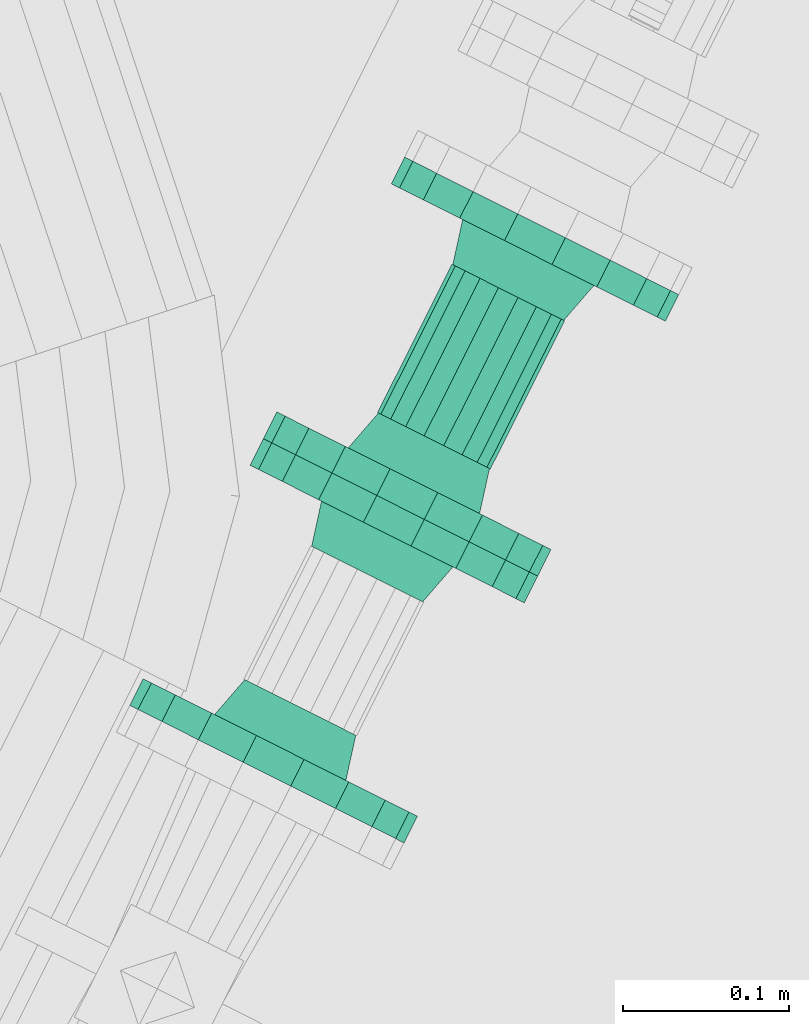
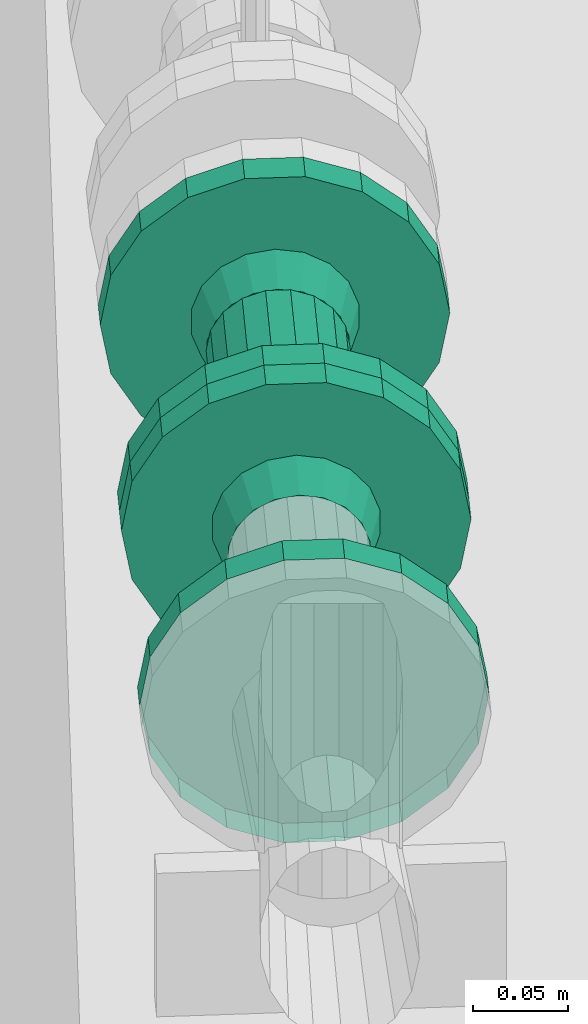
# One storey, part 106 of 206: 4 flow fittings, 1 flow segment.
"""IFC2X3 building model written with IfcOpenShell, lengths in metres."""

from ifc_helpers import new_model, si_unit, derived_unit, direction, frame, origin, place, context, subcontext, project, spatial, face_set, surface_model, source, transform, mapped, material, type_object, type_shapes, element, save


model = new_model("IFC2X3")

# Units and contexts
model_context = context("Model", 3, precision=5.2338327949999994e-05, world=origin(), true_north=direction((0.0, 1.0)))
body_context = subcontext(model_context, "Body", "Model", "MODEL_VIEW")
ifc_project = project(units=[si_unit("LENGTHUNIT", "METRE"), si_unit("AREAUNIT", "SQUARE_METRE"), si_unit("VOLUMEUNIT", "CUBIC_METRE"), si_unit("MASSUNIT", "GRAM", prefix="KILO"), si_unit("PLANEANGLEUNIT", "RADIAN"), derived_unit("THERMALTRANSMITTANCEUNIT", [(si_unit("MASSUNIT", "GRAM", prefix="KILO"), 1), (si_unit("THERMODYNAMICTEMPERATUREUNIT", "KELVIN"), -1), (si_unit("TIMEUNIT", "SECOND"), -3)])], contexts=[model_context])

# Site, building, storey
site_placement = place(None, frame((0.0, 0.0, 0.0), z_axis=(0.0, 0.0, 1.0), x_axis=(0.8939966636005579, -0.4480736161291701, 0.0)))
site = spatial("IfcSite", under=ifc_project, at=site_placement, Name="Default", CompositionType="ELEMENT")
building_placement = place(site_placement, origin())
building = spatial("IfcBuilding", under=site, at=building_placement, CompositionType="ELEMENT")
storey_placement = place(building_placement, origin())
storey = spatial("IfcBuildingStorey", under=building, at=storey_placement, Name="Erdgeschoss", CompositionType="ELEMENT", Elevation=0.0)

# Flow fittings
ifc_material = material(Name="IfcSurfaceStyle #352577")
distribution_element_type_1 = type_object("IfcDistributionElementType", Name="Flansch 355505:Flansch 355505", material=ifc_material)
shared_shape_1 = source(origin(), body_context, "Body", "SurfaceModel", [
    surface_model("IfcFaceBasedSurfaceModel", [(22.356766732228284, 5.582958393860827, 0.9080499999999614), (22.34375286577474, 5.582958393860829, 0.9057553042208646), (22.341375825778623, 5.55595839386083, 0.912286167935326), (22.356766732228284, 5.55595839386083, 0.914999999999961), (22.33230866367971, 5.582958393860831, 0.8991479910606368), (22.32784128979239, 5.555958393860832, 0.9044719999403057), (22.323814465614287, 5.582958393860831, 0.8890249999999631), (22.317795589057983, 5.555958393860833, 0.8924999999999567), (22.31929479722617, 5.582958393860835, 0.8766073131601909), (22.312450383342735, 5.555958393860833, 0.8778141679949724), (22.31929479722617, 5.582958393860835, 0.8633926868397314), (22.312450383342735, 5.555958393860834, 0.8621858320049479), (22.32381446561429, 5.5829583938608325, 0.8509749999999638), (22.317795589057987, 5.555958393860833, 0.847499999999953), (22.332308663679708, 5.582958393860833, 0.8408520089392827), (22.327841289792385, 5.555958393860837, 0.8355280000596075), (22.343752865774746, 5.582958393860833, 0.83424469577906), (22.341375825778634, 5.555958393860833, 0.827713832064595), (22.356766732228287, 5.5829583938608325, 0.8319499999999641), (22.356766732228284, 5.555958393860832, 0.8249999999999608), (22.369780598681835, 5.582958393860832, 0.8342446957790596), (22.372157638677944, 5.555958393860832, 0.8277138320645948), (22.38122480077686, 5.5829583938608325, 0.8408520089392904), (22.385692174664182, 5.555958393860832, 0.8355280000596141), (22.389718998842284, 5.582958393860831, 0.8509749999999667), (22.395737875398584, 5.555958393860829, 0.8474999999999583), (22.3942386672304, 5.582958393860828, 0.863392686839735), (22.40108308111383, 5.55595839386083, 0.8621858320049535), (22.3942386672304, 5.582958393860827, 0.8766073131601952), (22.401083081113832, 5.555958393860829, 0.8778141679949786), (22.389718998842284, 5.582958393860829, 0.8890249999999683), (22.39573787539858, 5.555958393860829, 0.8924999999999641), (22.381224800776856, 5.582958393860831, 0.8991479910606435), (22.38569217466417, 5.555958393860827, 0.9044719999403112), (22.369780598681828, 5.582958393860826, 0.9057553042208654), (22.372157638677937, 5.555958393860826, 0.9122861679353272), (22.264266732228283, 5.555958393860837, 0.8699999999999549), (22.26984516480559, 5.555958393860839, 0.8383631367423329), (22.26984516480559, 5.537958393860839, 0.8383631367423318), (22.264266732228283, 5.537958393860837, 0.8699999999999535), (22.285907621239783, 5.555958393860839, 0.8105421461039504), (22.285907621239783, 5.537958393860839, 0.8105421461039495), (22.310516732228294, 5.555958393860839, 0.7898926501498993), (22.31051673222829, 5.537958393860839, 0.7898926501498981), (22.340704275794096, 5.555958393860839, 0.7789052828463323), (22.340704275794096, 5.537958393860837, 0.7789052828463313), (22.37282918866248, 5.555958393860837, 0.7789052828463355), (22.37282918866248, 5.537958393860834, 0.7789052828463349), (22.403016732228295, 5.555958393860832, 0.7898926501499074), (22.40301673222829, 5.537958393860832, 0.7898926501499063), (22.427625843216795, 5.55595839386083, 0.8105421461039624), (22.427625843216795, 5.53795839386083, 0.8105421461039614), (22.44368829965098, 5.555958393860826, 0.8383631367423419), (22.44368829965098, 5.5379583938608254, 0.8383631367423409), (22.44926673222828, 5.5559583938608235, 0.8699999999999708), (22.44926673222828, 5.5379583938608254, 0.8699999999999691), (22.443688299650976, 5.5559583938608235, 0.9016368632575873), (22.443688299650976, 5.537958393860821, 0.9016368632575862), (22.427625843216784, 5.5559583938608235, 0.9294578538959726), (22.427625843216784, 5.537958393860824, 0.9294578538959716), (22.403016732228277, 5.5559583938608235, 0.9501073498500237), (22.403016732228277, 5.537958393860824, 0.950107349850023), (22.372829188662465, 5.555958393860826, 0.9610947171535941), (22.372829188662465, 5.537958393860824, 0.9610947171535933), (22.340704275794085, 5.555958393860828, 0.9610947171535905), (22.34070427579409, 5.5379583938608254, 0.9610947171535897), (22.310516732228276, 5.555958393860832, 0.9501073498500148), (22.310516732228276, 5.537958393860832, 0.9501073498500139), (22.285907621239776, 5.555958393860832, 0.9294578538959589), (22.285907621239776, 5.537958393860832, 0.9294578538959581), (22.269845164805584, 5.555958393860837, 0.9016368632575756), (22.269845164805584, 5.537958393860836, 0.9016368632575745), (22.356766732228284, 5.555958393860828, 0.8699999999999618)], [face_set([[[0, 1, 2, 3]], [[1, 4, 5, 2]], [[4, 6, 7, 5]], [[6, 8, 9, 7]], [[8, 10, 11, 9]], [[10, 12, 13, 11]], [[12, 14, 15, 13]], [[14, 16, 17, 15]], [[16, 18, 19, 17]], [[18, 20, 21, 19]], [[20, 22, 23, 21]], [[22, 24, 25, 23]], [[24, 26, 27, 25]], [[26, 28, 29, 27]], [[28, 30, 31, 29]], [[30, 32, 33, 31]], [[32, 34, 35, 33]], [[34, 0, 3, 35]], [[36, 37, 38, 39]], [[37, 40, 41, 38]], [[40, 42, 43, 41]], [[42, 44, 45, 43]], [[44, 46, 47, 45]], [[46, 48, 49, 47]], [[48, 50, 51, 49]], [[50, 52, 53, 51]], [[52, 54, 55, 53]], [[54, 56, 57, 55]], [[56, 58, 59, 57]], [[58, 60, 61, 59]], [[60, 62, 63, 61]], [[62, 64, 65, 63]], [[64, 66, 67, 65]], [[66, 68, 69, 67]], [[68, 70, 71, 69]], [[70, 36, 39, 71]], [[72, 37, 36]], [[72, 40, 37]], [[72, 42, 40]], [[72, 44, 42]], [[72, 46, 44]], [[72, 48, 46]], [[72, 50, 48]], [[72, 52, 50]], [[72, 54, 52]], [[72, 56, 54]], [[72, 58, 56]], [[72, 60, 58]], [[72, 62, 60]], [[72, 64, 62]], [[72, 66, 64]], [[72, 68, 66]], [[72, 70, 68]], [[72, 36, 70]]])]),
])
type_shapes(distribution_element_type_1, [shared_shape_1])
flow_fitting_1_placement = place(storey_placement, origin())
element("IfcFlowFitting", 1, at=flow_fitting_1_placement, inside=storey, type_object=distribution_element_type_1, material=ifc_material, Name="Flansch", ObjectType="Flansch", context=body_context, shape_type="MappedRepresentation", body=[
    mapped(shared_shape_1, transform((0.0, 0.0, 0.0), scale=1.0)),
])
distribution_element_type_2 = type_object("IfcDistributionElementType", Name="Flansch 355534:Flansch 355534", material=ifc_material)
shared_shape_2 = source(origin(), body_context, "Body", "SurfaceModel", [
    surface_model("IfcFaceBasedSurfaceModel", [(22.264266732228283, 5.71795839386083, 0.869999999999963), (22.269845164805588, 5.71795839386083, 0.9016368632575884), (22.269845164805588, 5.73595839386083, 0.9016368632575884), (22.264266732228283, 5.73595839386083, 0.869999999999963), (22.285907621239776, 5.71795839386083, 0.9294578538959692), (22.285907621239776, 5.73595839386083, 0.9294578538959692), (22.310516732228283, 5.71795839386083, 0.950107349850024), (22.310516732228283, 5.73595839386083, 0.950107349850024), (22.340704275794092, 5.71795839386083, 0.9610947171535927), (22.340704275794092, 5.73595839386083, 0.9610947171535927), (22.372829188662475, 5.71795839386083, 0.9610947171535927), (22.372829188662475, 5.73595839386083, 0.9610947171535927), (22.40301673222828, 5.71795839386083, 0.9501073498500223), (22.40301673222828, 5.73595839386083, 0.9501073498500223), (22.427625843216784, 5.71795839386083, 0.9294578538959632), (22.427625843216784, 5.73595839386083, 0.9294578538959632), (22.44368829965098, 5.71795839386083, 0.9016368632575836), (22.44368829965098, 5.73595839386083, 0.9016368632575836), (22.449266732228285, 5.71795839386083, 0.8699999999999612), (22.449266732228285, 5.73595839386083, 0.8699999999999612), (22.44368829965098, 5.71795839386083, 0.838363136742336), (22.44368829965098, 5.73595839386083, 0.838363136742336), (22.427625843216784, 5.71795839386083, 0.8105421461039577), (22.427625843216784, 5.73595839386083, 0.8105421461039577), (22.403016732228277, 5.71795839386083, 0.7898926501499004), (22.403016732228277, 5.73595839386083, 0.7898926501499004), (22.37282918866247, 5.71795839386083, 0.778905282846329), (22.37282918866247, 5.73595839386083, 0.778905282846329), (22.340704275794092, 5.71795839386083, 0.7789052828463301), (22.340704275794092, 5.73595839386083, 0.7789052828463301), (22.310516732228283, 5.71795839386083, 0.7898926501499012), (22.310516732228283, 5.73595839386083, 0.7898926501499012), (22.285907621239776, 5.71795839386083, 0.8105421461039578), (22.285907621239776, 5.73595839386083, 0.8105421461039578), (22.269845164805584, 5.71795839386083, 0.8383631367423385), (22.269845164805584, 5.73595839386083, 0.8383631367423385), (22.35676673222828, 5.73595839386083, 0.8699999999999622), (22.356766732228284, 5.73595839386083, 0.9149999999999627), (22.37215763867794, 5.73595839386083, 0.9122861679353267), (22.369780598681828, 5.76295839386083, 0.9057553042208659), (22.356766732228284, 5.76295839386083, 0.9080499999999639), (22.38569217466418, 5.735958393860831, 0.9044719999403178), (22.381224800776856, 5.762958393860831, 0.8991479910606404), (22.395737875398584, 5.73595839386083, 0.8924999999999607), (22.38971899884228, 5.76295839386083, 0.889024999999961), (22.40108308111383, 5.73595839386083, 0.8778141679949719), (22.394238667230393, 5.76295839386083, 0.876607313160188), (22.40108308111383, 5.73595839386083, 0.8621858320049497), (22.394238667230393, 5.76295839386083, 0.8633926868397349), (22.39573787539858, 5.735958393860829, 0.8474999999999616), (22.38971899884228, 5.7629583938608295, 0.8509749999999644), (22.38569217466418, 5.73595839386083, 0.8355280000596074), (22.38122480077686, 5.76295839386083, 0.8408520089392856), (22.372157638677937, 5.73595839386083, 0.8277138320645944), (22.369780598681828, 5.76295839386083, 0.8342446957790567), (22.356766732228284, 5.73595839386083, 0.8249999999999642), (22.356766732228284, 5.76295839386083, 0.8319499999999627), (22.341375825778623, 5.73595839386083, 0.8277138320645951), (22.343752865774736, 5.76295839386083, 0.8342446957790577), (22.327841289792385, 5.73595839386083, 0.8355280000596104), (22.33230866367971, 5.76295839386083, 0.8408520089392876), (22.317795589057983, 5.73595839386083, 0.8474999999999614), (22.323814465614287, 5.76295839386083, 0.8509749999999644), (22.312450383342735, 5.73595839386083, 0.8621858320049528), (22.31929479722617, 5.76295839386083, 0.8633926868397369), (22.31245038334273, 5.73595839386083, 0.877814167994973), (22.319294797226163, 5.76295839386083, 0.8766073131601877), (22.317795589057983, 5.73595839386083, 0.8924999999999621), (22.323814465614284, 5.76295839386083, 0.8890249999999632), (22.327841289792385, 5.73595839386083, 0.9044719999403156), (22.33230866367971, 5.76295839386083, 0.8991479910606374), (22.341375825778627, 5.73595839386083, 0.9122861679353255), (22.34375286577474, 5.76295839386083, 0.9057553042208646)], [face_set([[[0, 1, 2, 3]], [[1, 4, 5, 2]], [[4, 6, 7, 5]], [[6, 8, 9, 7]], [[8, 10, 11, 9]], [[10, 12, 13, 11]], [[12, 14, 15, 13]], [[14, 16, 17, 15]], [[16, 18, 19, 17]], [[18, 20, 21, 19]], [[20, 22, 23, 21]], [[22, 24, 25, 23]], [[24, 26, 27, 25]], [[26, 28, 29, 27]], [[28, 30, 31, 29]], [[30, 32, 33, 31]], [[32, 34, 35, 33]], [[34, 0, 3, 35]], [[36, 35, 3]], [[36, 33, 35]], [[36, 31, 33]], [[36, 29, 31]], [[36, 27, 29]], [[36, 25, 27]], [[36, 23, 25]], [[36, 21, 23]], [[36, 19, 21]], [[36, 17, 19]], [[36, 15, 17]], [[36, 13, 15]], [[36, 11, 13]], [[36, 9, 11]], [[36, 7, 9]], [[36, 5, 7]], [[36, 2, 5]], [[36, 3, 2]], [[37, 38, 39, 40]], [[38, 41, 42, 39]], [[41, 43, 44, 42]], [[43, 45, 46, 44]], [[45, 47, 48, 46]], [[47, 49, 50, 48]], [[49, 51, 52, 50]], [[51, 53, 54, 52]], [[53, 55, 56, 54]], [[55, 57, 58, 56]], [[57, 59, 60, 58]], [[59, 61, 62, 60]], [[61, 63, 64, 62]], [[63, 65, 66, 64]], [[65, 67, 68, 66]], [[67, 69, 70, 68]], [[69, 71, 72, 70]], [[71, 37, 40, 72]]])]),
])
type_shapes(distribution_element_type_2, [shared_shape_2])
flow_fitting_2_placement = place(storey_placement, origin())
element("IfcFlowFitting", 2, at=flow_fitting_2_placement, inside=storey, type_object=distribution_element_type_2, material=ifc_material, Name="Flansch", ObjectType="Flansch", context=body_context, shape_type="MappedRepresentation", body=[
    mapped(shared_shape_2, transform((0.0, 0.0, 0.0), scale=1.0)),
])

# Flow segment
distribution_element_type_3 = type_object("IfcDistributionElementType", Name="Stahlrohr nach DIN 2448 355557:Stahlrohr nach DIN 2448 355557", material=ifc_material)
shared_shape_3 = source(origin(), body_context, "Body", "SurfaceModel", [
    surface_model("IfcFaceBasedSurfaceModel", [(22.318716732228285, 5.862958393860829, 0.8699999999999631), (22.32101142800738, 5.862958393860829, 0.8569861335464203), (22.32101142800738, 5.76295839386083, 0.8569861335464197), (22.318716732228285, 5.76295839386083, 0.8699999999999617), (22.32761874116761, 5.862958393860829, 0.8455419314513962), (22.32761874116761, 5.76295839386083, 0.8455419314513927), (22.33774173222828, 5.862958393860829, 0.8370477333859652), (22.33774173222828, 5.76295839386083, 0.8370477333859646), (22.350159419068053, 5.862958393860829, 0.8325280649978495), (22.350159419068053, 5.76295839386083, 0.8325280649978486), (22.36337404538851, 5.862958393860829, 0.832528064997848), (22.36337404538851, 5.76295839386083, 0.8325280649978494), (22.375791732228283, 5.862958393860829, 0.837047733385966), (22.375791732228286, 5.76295839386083, 0.8370477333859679), (22.385914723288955, 5.862958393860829, 0.8455419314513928), (22.385914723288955, 5.76295839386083, 0.8455419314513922), (22.392522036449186, 5.862958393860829, 0.8569861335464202), (22.392522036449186, 5.76295839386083, 0.856986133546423), (22.394816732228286, 5.862958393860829, 0.8699999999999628), (22.39481673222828, 5.76295839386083, 0.8699999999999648), (22.392522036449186, 5.862958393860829, 0.8830138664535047), (22.392522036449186, 5.76295839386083, 0.8830138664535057), (22.38591472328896, 5.862958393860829, 0.8944580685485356), (22.385914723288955, 5.76295839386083, 0.8944580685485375), (22.375791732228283, 5.862958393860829, 0.9029522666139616), (22.375791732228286, 5.76295839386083, 0.9029522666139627), (22.363374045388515, 5.862958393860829, 0.9074719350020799), (22.36337404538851, 5.76295839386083, 0.9074719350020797), (22.350159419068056, 5.862958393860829, 0.9074719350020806), (22.350159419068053, 5.76295839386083, 0.9074719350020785), (22.337741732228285, 5.862958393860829, 0.902952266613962), (22.33774173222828, 5.76295839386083, 0.9029522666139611), (22.32761874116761, 5.862958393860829, 0.8944580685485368), (22.327618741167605, 5.76295839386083, 0.8944580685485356), (22.32101142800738, 5.862958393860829, 0.8830138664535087), (22.32101142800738, 5.76295839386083, 0.8830138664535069)], [face_set([[[0, 1, 2, 3]], [[1, 4, 5, 2]], [[4, 6, 7, 5]], [[6, 8, 9, 7]], [[8, 10, 11, 9]], [[10, 12, 13, 11]], [[12, 14, 15, 13]], [[14, 16, 17, 15]], [[16, 18, 19, 17]], [[18, 20, 21, 19]], [[20, 22, 23, 21]], [[22, 24, 25, 23]], [[24, 26, 27, 25]], [[26, 28, 29, 27]], [[28, 30, 31, 29]], [[30, 32, 33, 31]], [[32, 34, 35, 33]], [[34, 0, 3, 35]]])]),
])
type_shapes(distribution_element_type_3, [shared_shape_3])
flow_segment_placement = place(storey_placement, origin())
element("IfcFlowSegment", 3, at=flow_segment_placement, inside=storey, type_object=distribution_element_type_3, material=ifc_material, Name="Stahlrohr nach DIN 2448", ObjectType="Stahlrohr nach DIN 2448", context=body_context, shape_type="MappedRepresentation", body=[
    mapped(shared_shape_3, transform((0.0, 0.0, 0.0), scale=1.0)),
])

# Flow fittings
distribution_element_type_4 = type_object("IfcDistributionElementType", Name="Flansch 357885:Flansch 357885", material=ifc_material)
shared_shape_4 = source(origin(), body_context, "Body", "SurfaceModel", [
    surface_model("IfcFaceBasedSurfaceModel", [(22.264266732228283, 5.71795839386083, 0.869999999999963), (22.269845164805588, 5.71795839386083, 0.8383631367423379), (22.269845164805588, 5.699958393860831, 0.8383631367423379), (22.264266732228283, 5.699958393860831, 0.869999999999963), (22.285907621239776, 5.71795839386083, 0.8105421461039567), (22.285907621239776, 5.699958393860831, 0.8105421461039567), (22.310516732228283, 5.71795839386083, 0.7898926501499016), (22.310516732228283, 5.699958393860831, 0.7898926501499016), (22.340704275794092, 5.71795839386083, 0.778905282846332), (22.340704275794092, 5.699958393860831, 0.778905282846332), (22.372829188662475, 5.71795839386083, 0.7789052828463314), (22.372829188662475, 5.699958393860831, 0.7789052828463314), (22.40301673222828, 5.71795839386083, 0.7898926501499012), (22.40301673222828, 5.699958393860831, 0.7898926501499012), (22.427625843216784, 5.71795839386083, 0.8105421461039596), (22.427625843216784, 5.699958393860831, 0.8105421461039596), (22.44368829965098, 5.71795839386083, 0.8383631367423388), (22.44368829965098, 5.699958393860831, 0.8383631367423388), (22.449266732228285, 5.71795839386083, 0.8699999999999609), (22.449266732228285, 5.699958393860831, 0.8699999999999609), (22.44368829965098, 5.71795839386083, 0.9016368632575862), (22.44368829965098, 5.699958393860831, 0.9016368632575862), (22.427625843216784, 5.71795839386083, 0.9294578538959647), (22.427625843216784, 5.699958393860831, 0.9294578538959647), (22.403016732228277, 5.71795839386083, 0.9501073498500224), (22.403016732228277, 5.699958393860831, 0.9501073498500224), (22.372829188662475, 5.71795839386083, 0.9610947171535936), (22.372829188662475, 5.699958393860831, 0.9610947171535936), (22.340704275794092, 5.71795839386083, 0.9610947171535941), (22.340704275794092, 5.699958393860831, 0.9610947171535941), (22.310516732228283, 5.71795839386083, 0.9501073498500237), (22.310516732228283, 5.699958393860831, 0.9501073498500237), (22.285907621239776, 5.71795839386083, 0.9294578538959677), (22.285907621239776, 5.699958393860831, 0.9294578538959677), (22.269845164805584, 5.71795839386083, 0.9016368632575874), (22.269845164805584, 5.699958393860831, 0.9016368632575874), (22.356766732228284, 5.699958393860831, 0.8699999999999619), (22.356766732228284, 5.699958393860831, 0.8249999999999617), (22.37215763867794, 5.699958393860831, 0.8277138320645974), (22.369780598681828, 5.672958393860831, 0.8342446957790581), (22.356766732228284, 5.672958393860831, 0.8319499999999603), (22.38569217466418, 5.69995839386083, 0.8355280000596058), (22.381224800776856, 5.67295839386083, 0.8408520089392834), (22.395737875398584, 5.699958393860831, 0.8474999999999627), (22.38971899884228, 5.672958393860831, 0.8509749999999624), (22.40108308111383, 5.699958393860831, 0.8621858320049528), (22.3942386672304, 5.672958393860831, 0.863392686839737), (22.40108308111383, 5.699958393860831, 0.8778141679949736), (22.394238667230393, 5.672958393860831, 0.8766073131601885), (22.39573787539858, 5.699958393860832, 0.8924999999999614), (22.38971899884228, 5.6729583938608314, 0.889024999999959), (22.38569217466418, 5.699958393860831, 0.9044719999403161), (22.38122480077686, 5.672958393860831, 0.8991479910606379), (22.372157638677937, 5.699958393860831, 0.9122861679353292), (22.369780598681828, 5.672958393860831, 0.9057553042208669), (22.356766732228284, 5.699958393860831, 0.91499999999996), (22.356766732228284, 5.672958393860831, 0.9080499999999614), (22.341375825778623, 5.699958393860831, 0.9122861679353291), (22.343752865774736, 5.672958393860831, 0.9057553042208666), (22.327841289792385, 5.699958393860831, 0.9044719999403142), (22.33230866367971, 5.672958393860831, 0.899147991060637), (22.317795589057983, 5.699958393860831, 0.8924999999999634), (22.323814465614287, 5.672958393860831, 0.8890249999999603), (22.312450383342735, 5.699958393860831, 0.8778141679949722), (22.31929479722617, 5.672958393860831, 0.8766073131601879), (22.31245038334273, 5.699958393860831, 0.8621858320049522), (22.319294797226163, 5.672958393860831, 0.8633926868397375), (22.317795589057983, 5.699958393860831, 0.8474999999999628), (22.323814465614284, 5.672958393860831, 0.8509749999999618), (22.327841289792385, 5.699958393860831, 0.8355280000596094), (22.33230866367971, 5.672958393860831, 0.8408520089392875), (22.341375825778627, 5.699958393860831, 0.8277138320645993), (22.34375286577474, 5.672958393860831, 0.83424469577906)], [face_set([[[0, 1, 2, 3]], [[1, 4, 5, 2]], [[4, 6, 7, 5]], [[6, 8, 9, 7]], [[8, 10, 11, 9]], [[10, 12, 13, 11]], [[12, 14, 15, 13]], [[14, 16, 17, 15]], [[16, 18, 19, 17]], [[18, 20, 21, 19]], [[20, 22, 23, 21]], [[22, 24, 25, 23]], [[24, 26, 27, 25]], [[26, 28, 29, 27]], [[28, 30, 31, 29]], [[30, 32, 33, 31]], [[32, 34, 35, 33]], [[34, 0, 3, 35]], [[36, 35, 3]], [[36, 33, 35]], [[36, 31, 33]], [[36, 29, 31]], [[36, 27, 29]], [[36, 25, 27]], [[36, 23, 25]], [[36, 21, 23]], [[36, 19, 21]], [[36, 17, 19]], [[36, 15, 17]], [[36, 13, 15]], [[36, 11, 13]], [[36, 9, 11]], [[36, 7, 9]], [[36, 5, 7]], [[36, 2, 5]], [[36, 3, 2]], [[37, 38, 39, 40]], [[38, 41, 42, 39]], [[41, 43, 44, 42]], [[43, 45, 46, 44]], [[45, 47, 48, 46]], [[47, 49, 50, 48]], [[49, 51, 52, 50]], [[51, 53, 54, 52]], [[53, 55, 56, 54]], [[55, 57, 58, 56]], [[57, 59, 60, 58]], [[59, 61, 62, 60]], [[61, 63, 64, 62]], [[63, 65, 66, 64]], [[65, 67, 68, 66]], [[67, 69, 70, 68]], [[69, 71, 72, 70]], [[71, 37, 40, 72]]])]),
])
type_shapes(distribution_element_type_4, [shared_shape_4])
flow_fitting_3_placement = place(storey_placement, origin())
element("IfcFlowFitting", 4, at=flow_fitting_3_placement, inside=storey, type_object=distribution_element_type_4, material=ifc_material, Name="Flansch", ObjectType="Flansch", context=body_context, shape_type="MappedRepresentation", body=[
    mapped(shared_shape_4, transform((0.0, 0.0, 0.0), scale=1.0)),
])
distribution_element_type_5 = type_object("IfcDistributionElementType", Name="Flansch 357906:Flansch 357906", material=ifc_material)
shared_shape_5 = source(origin(), body_context, "Body", "SurfaceModel", [
    surface_model("IfcFaceBasedSurfaceModel", [(22.264266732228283, 5.90795839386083, 0.869999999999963), (22.269845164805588, 5.90795839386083, 0.8383631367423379), (22.269845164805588, 5.88995839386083, 0.8383631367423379), (22.264266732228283, 5.88995839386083, 0.869999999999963), (22.285907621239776, 5.90795839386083, 0.8105421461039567), (22.285907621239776, 5.88995839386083, 0.8105421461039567), (22.310516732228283, 5.90795839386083, 0.7898926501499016), (22.310516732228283, 5.88995839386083, 0.7898926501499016), (22.340704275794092, 5.90795839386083, 0.778905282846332), (22.340704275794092, 5.88995839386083, 0.778905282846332), (22.372829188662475, 5.90795839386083, 0.7789052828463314), (22.372829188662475, 5.88995839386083, 0.7789052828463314), (22.40301673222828, 5.90795839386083, 0.7898926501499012), (22.40301673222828, 5.88995839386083, 0.7898926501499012), (22.427625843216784, 5.90795839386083, 0.8105421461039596), (22.427625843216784, 5.88995839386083, 0.8105421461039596), (22.44368829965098, 5.90795839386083, 0.8383631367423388), (22.44368829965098, 5.88995839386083, 0.8383631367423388), (22.449266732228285, 5.90795839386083, 0.8699999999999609), (22.449266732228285, 5.88995839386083, 0.8699999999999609), (22.44368829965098, 5.90795839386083, 0.9016368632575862), (22.44368829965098, 5.88995839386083, 0.9016368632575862), (22.427625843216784, 5.90795839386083, 0.9294578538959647), (22.427625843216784, 5.88995839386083, 0.9294578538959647), (22.403016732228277, 5.90795839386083, 0.9501073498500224), (22.403016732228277, 5.88995839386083, 0.9501073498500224), (22.372829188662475, 5.90795839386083, 0.9610947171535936), (22.372829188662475, 5.88995839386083, 0.9610947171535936), (22.340704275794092, 5.90795839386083, 0.9610947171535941), (22.340704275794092, 5.88995839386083, 0.9610947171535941), (22.310516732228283, 5.90795839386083, 0.9501073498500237), (22.310516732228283, 5.88995839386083, 0.9501073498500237), (22.285907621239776, 5.90795839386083, 0.9294578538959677), (22.285907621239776, 5.88995839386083, 0.9294578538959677), (22.269845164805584, 5.90795839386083, 0.9016368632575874), (22.269845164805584, 5.88995839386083, 0.9016368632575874), (22.356766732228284, 5.88995839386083, 0.8699999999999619), (22.356766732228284, 5.88995839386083, 0.8249999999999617), (22.37215763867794, 5.88995839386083, 0.8277138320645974), (22.369780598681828, 5.862958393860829, 0.8342446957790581), (22.356766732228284, 5.862958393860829, 0.8319499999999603), (22.38569217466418, 5.889958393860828, 0.8355280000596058), (22.381224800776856, 5.862958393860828, 0.8408520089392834), (22.395737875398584, 5.88995839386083, 0.8474999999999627), (22.38971899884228, 5.862958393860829, 0.8509749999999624), (22.40108308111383, 5.88995839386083, 0.8621858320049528), (22.3942386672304, 5.862958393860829, 0.863392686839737), (22.40108308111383, 5.88995839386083, 0.8778141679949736), (22.394238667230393, 5.862958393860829, 0.8766073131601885), (22.39573787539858, 5.889958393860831, 0.8924999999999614), (22.38971899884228, 5.862958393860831, 0.889024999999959), (22.38569217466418, 5.88995839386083, 0.9044719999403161), (22.38122480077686, 5.862958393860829, 0.8991479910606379), (22.372157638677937, 5.88995839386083, 0.9122861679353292), (22.369780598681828, 5.862958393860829, 0.9057553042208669), (22.356766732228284, 5.88995839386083, 0.91499999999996), (22.356766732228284, 5.862958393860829, 0.9080499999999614), (22.341375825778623, 5.88995839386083, 0.9122861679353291), (22.343752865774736, 5.862958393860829, 0.9057553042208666), (22.327841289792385, 5.88995839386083, 0.9044719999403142), (22.33230866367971, 5.862958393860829, 0.899147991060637), (22.317795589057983, 5.88995839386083, 0.8924999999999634), (22.323814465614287, 5.862958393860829, 0.8890249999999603), (22.312450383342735, 5.88995839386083, 0.8778141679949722), (22.31929479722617, 5.862958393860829, 0.8766073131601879), (22.31245038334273, 5.88995839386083, 0.8621858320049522), (22.319294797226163, 5.862958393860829, 0.8633926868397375), (22.317795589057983, 5.88995839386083, 0.8474999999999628), (22.323814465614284, 5.862958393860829, 0.8509749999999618), (22.327841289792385, 5.88995839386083, 0.8355280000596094), (22.33230866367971, 5.862958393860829, 0.8408520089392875), (22.341375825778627, 5.88995839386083, 0.8277138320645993), (22.34375286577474, 5.862958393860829, 0.83424469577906)], [face_set([[[0, 1, 2, 3]], [[1, 4, 5, 2]], [[4, 6, 7, 5]], [[6, 8, 9, 7]], [[8, 10, 11, 9]], [[10, 12, 13, 11]], [[12, 14, 15, 13]], [[14, 16, 17, 15]], [[16, 18, 19, 17]], [[18, 20, 21, 19]], [[20, 22, 23, 21]], [[22, 24, 25, 23]], [[24, 26, 27, 25]], [[26, 28, 29, 27]], [[28, 30, 31, 29]], [[30, 32, 33, 31]], [[32, 34, 35, 33]], [[34, 0, 3, 35]], [[36, 35, 3]], [[36, 33, 35]], [[36, 31, 33]], [[36, 29, 31]], [[36, 27, 29]], [[36, 25, 27]], [[36, 23, 25]], [[36, 21, 23]], [[36, 19, 21]], [[36, 17, 19]], [[36, 15, 17]], [[36, 13, 15]], [[36, 11, 13]], [[36, 9, 11]], [[36, 7, 9]], [[36, 5, 7]], [[36, 2, 5]], [[36, 3, 2]], [[37, 38, 39, 40]], [[38, 41, 42, 39]], [[41, 43, 44, 42]], [[43, 45, 46, 44]], [[45, 47, 48, 46]], [[47, 49, 50, 48]], [[49, 51, 52, 50]], [[51, 53, 54, 52]], [[53, 55, 56, 54]], [[55, 57, 58, 56]], [[57, 59, 60, 58]], [[59, 61, 62, 60]], [[61, 63, 64, 62]], [[63, 65, 66, 64]], [[65, 67, 68, 66]], [[67, 69, 70, 68]], [[69, 71, 72, 70]], [[71, 37, 40, 72]]])]),
])
type_shapes(distribution_element_type_5, [shared_shape_5])
flow_fitting_4_placement = place(storey_placement, origin())
element("IfcFlowFitting", 5, at=flow_fitting_4_placement, inside=storey, type_object=distribution_element_type_5, material=ifc_material, Name="Flansch", ObjectType="Flansch", context=body_context, shape_type="MappedRepresentation", body=[
    mapped(shared_shape_5, transform((0.0, 0.0, 0.0), scale=1.0)),
])

save(model, "model.ifc")
